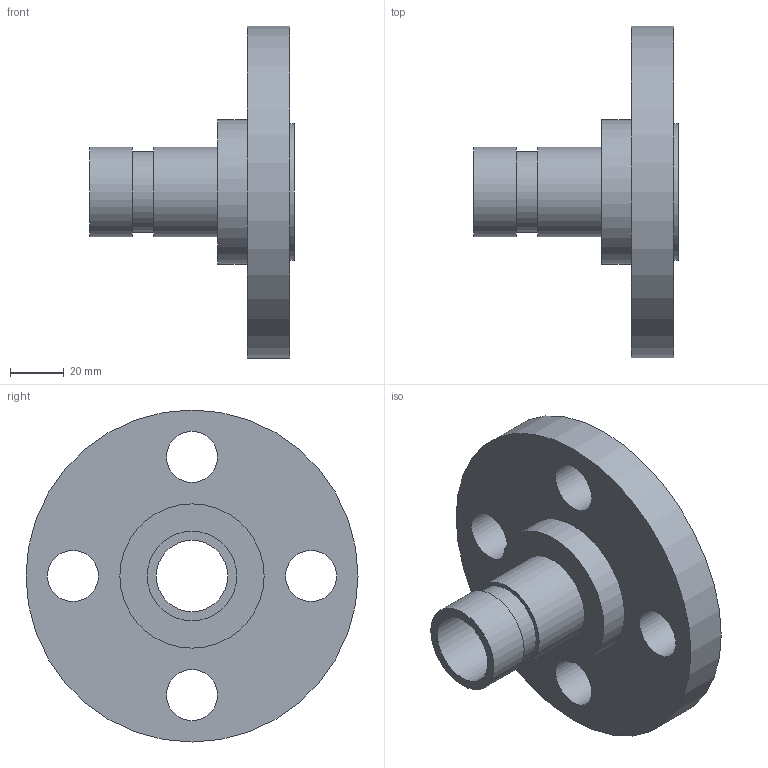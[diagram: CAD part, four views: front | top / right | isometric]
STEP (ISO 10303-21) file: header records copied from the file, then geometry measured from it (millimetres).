
FILE_DESCRIPTION(/* description */ ('VIC FLANGE ADAPTER No 46R','CAx-IF Rec.Pracs.---Representation and Presentation of Product Manufacturing Information (PMI)---4.0---2014-10-13'),/* implementation_level */ '2;1');
FILE_NAME(/* name */ 'C:\Users\kkamble\AppData\Roaming\Autodesk\ApplicationPlugins\Back Up\Victaulic_IPS_Flanged Adapter Nipple_CL 300 RF_No 46R (OGSxFLG)\Victaulic_IPS_Flanged Adapter Nipple_CL 300 RF_No 46R (OGSxFLG)_1 (25).stp',/* time_stamp */ '2020-07-26T22:25:27+06:00',/* author */ ('CONSTRUCTION PIPING SERVICES'),/* organization */ ('Victaulic'),/* preprocessor_version */ 'ST-DEVELOPER v17.2',/* originating_system */ 'Autodesk Inventor 2019',/* authorisation */ '');
FILE_SCHEMA (('AP242_MANAGED_MODEL_BASED_3D_ENGINEERING_MIM_LF { 1 0 10303 442 1 1 4 }'));
Length unit declared in the file: inch
Products named in the file (1): 046R-01.0
Bounding box: 76.2 x 123.95 x 123.95 mm (x, y, z)
Volume: 200905.1 mm3; surface area: 44518.6 mm2
Topology: 1 solids, 1 shells, 18 faces, 47 edges, 36 vertices
Faces by surface type: cylinder 11, plane 7
Full cylindrical faces by diameter (mm): 19.05 x4, 26.645 x1, 30.226 x1, 33.401 x2, 50.8 x1, 53.848 x1, 123.952 x1
Entity records: 689 total; most frequent: DIRECTION 121, CARTESIAN_POINT 102, ORIENTED_EDGE 94, AXIS2_PLACEMENT_3D 55, EDGE_CURVE 47, CIRCLE 36, VERTEX_POINT 36, EDGE_LOOP 33
